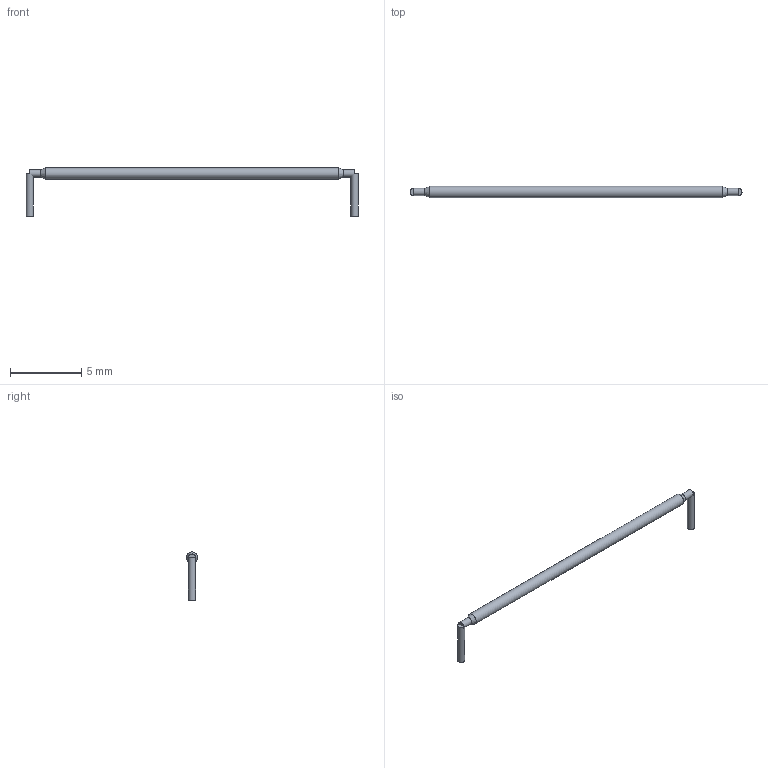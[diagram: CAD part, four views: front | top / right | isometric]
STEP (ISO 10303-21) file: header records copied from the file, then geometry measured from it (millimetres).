
FILE_DESCRIPTION(('FreeCAD Model'),'2;1');
FILE_NAME('Open CASCADE Shape Model','2026-04-07T19:07:43',('FreeCAD'),( 'FreeCAD'),'Open CASCADE STEP processor 7.8','FreeCAD','Unknown');
FILE_SCHEMA(('AUTOMOTIVE_DESIGN { 1 0 10303 214 1 1 1 1 }'));
Length unit declared in the file: millimetre
Products named in the file (1): Open CASCADE STEP translator 7.8 9
Bounding box: 23.36 x 0.8 x 3.4 mm (x, y, z)
Volume: 16.3 mm3; surface area: 100.2 mm2
Topology: 4 solids, 4 shells, 14 faces, 16 edges, 10 vertices
Faces by surface type: plane 8, cylinder 4, cone 2
Full cylindrical faces by diameter (mm): 0.5 x3, 0.8 x1
Entity records: 287 total; most frequent: DIRECTION 56, CARTESIAN_POINT 41, ORIENTED_EDGE 32, AXIS2_PLACEMENT_3D 25, EDGE_CURVE 16, ADVANCED_FACE 14, FACE_BOUND 14, EDGE_LOOP 14
